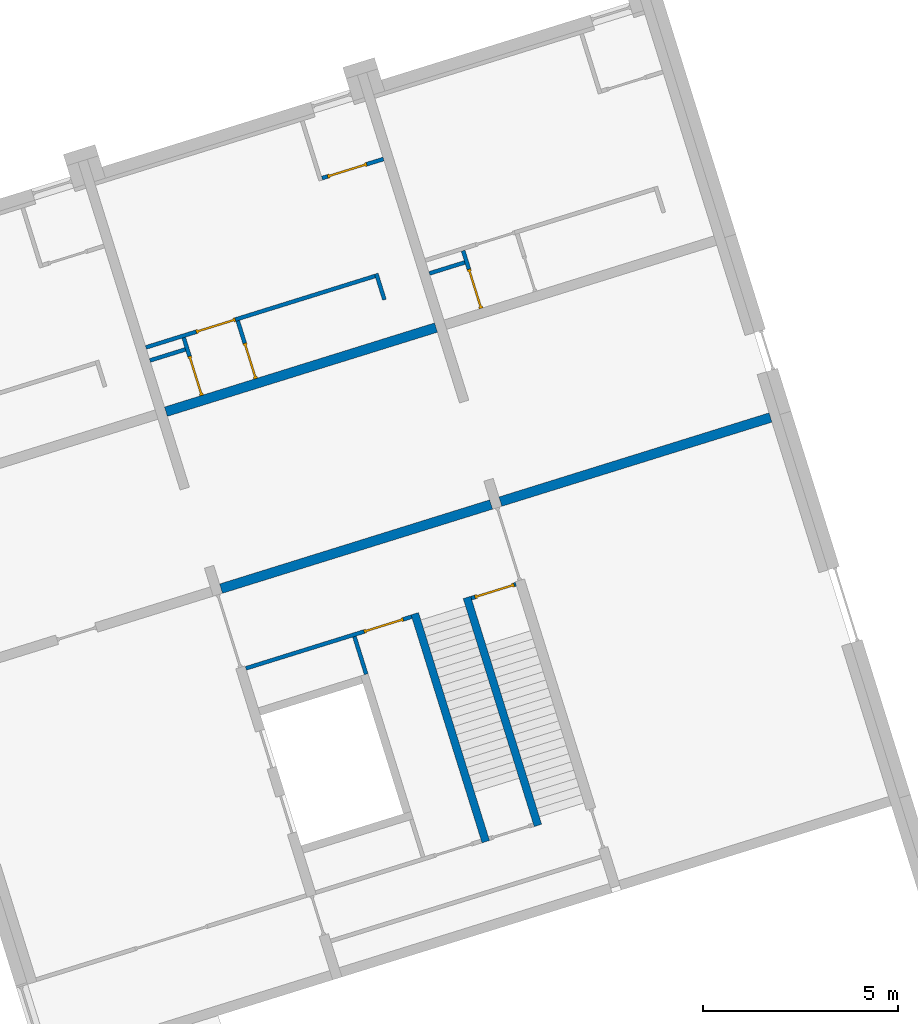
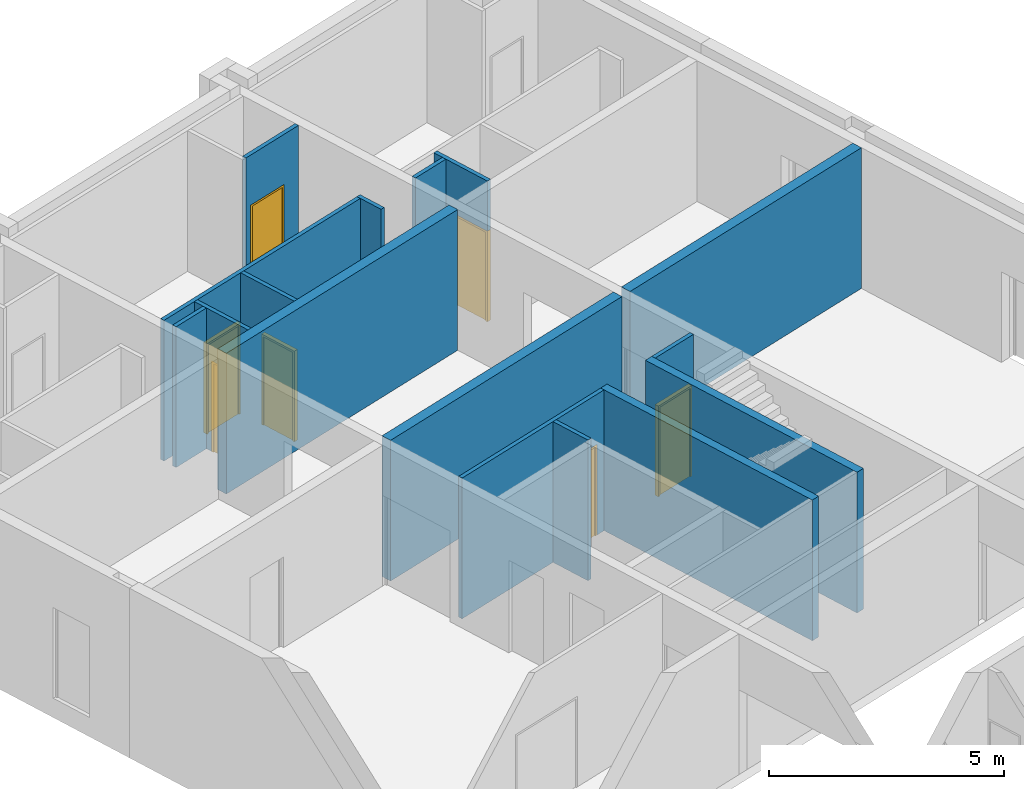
# One storey, part 5 of 10: 16 walls, 7 doors, 10 openings.
"""IFC4 building model written with IfcOpenShell, lengths in metres."""

from ifc_helpers import new_model, entity, si_unit, converted_unit, direction, frame, origin, place, context, subcontext, project, spatial, indexed_curve, outline, extrude, polygons, source, transform, mapped, material, constituent, constituent_set, type_object, type_shapes, element, fill, save


model = new_model("IFC4")

# Units and contexts
model_context = context("Model", 3, precision=1e-05, world=origin(), true_north=direction((6.12323399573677e-17, 1.0)))
body_context = subcontext(model_context, "Body", "Model", "MODEL_VIEW")
ifc_project = project(units=[si_unit("LENGTHUNIT", "METRE"), si_unit("AREAUNIT", "SQUARE_METRE"), si_unit("VOLUMEUNIT", "CUBIC_METRE"), converted_unit("PLANEANGLEUNIT", "DEGREE", entity("IfcPlaneAngleMeasure", 0.0174532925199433), si_unit("PLANEANGLEUNIT", "RADIAN"), dimensions=[0, 0, 0, 0, 0, 0, 0])], contexts=[model_context])

# Site, building, storey
site_placement = place(None, frame((13.1347999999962, 11.9886000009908, 0.0), z_axis=(0.0, 0.0, 1.0), x_axis=(0.954770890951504, 0.297342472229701, 0.0)))
site = spatial("IfcSite", under=ifc_project, at=site_placement, Name="Schiehaven", CompositionType="ELEMENT")
building_placement = place(site_placement, origin())
building = spatial("IfcBuilding", under=site, at=building_placement, Name="VORM huis", CompositionType="ELEMENT")
storey_placement = place(building_placement, origin())
storey = spatial("IfcBuildingStorey", under=building, at=storey_placement, Name="00 begane grond", CompositionType="ELEMENT", Elevation=0.0)

# Walls
ifc_material_1 = material(Name="beton_gewapend_ihw", Category="Miscellaneous")
wall_type_1 = type_object("IfcWallType", Name="Basic Wall:28_WA_skelet_wand 250mm_gen", PredefinedType="STANDARD")
wall_1_placement = place(storey_placement, frame((12.6250000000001, 22.2, 0.0)))
element("IfcWall", 1, at=wall_1_placement, inside=storey, type_object=wall_type_1, material=ifc_material_1, Name="Constructieve wand", ObjectType="Wand", PredefinedType="NOTDEFINED", context=body_context, shape_type="SweptSolid", body=[
    extrude(outline(indexed_curve([(7.25000000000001, 0.125000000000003), (-4.73312500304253e-16, 0.125000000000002), (4.73312500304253e-16, -0.125000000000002), (7.25000000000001, -0.125), (7.25000000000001, 0.125000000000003)], self_intersect=False)), origin(), (0.0, 0.0, 1.0), 3.65),
])
ifc_material_2 = material(Name="beton_gewapend_prefab-element", Category="Miscellaneous")
wall_type_2 = type_object("IfcWallType", Name="Basic Wall:28_WA_skelet_wand 200mm_gen", PredefinedType="STANDARD")
wall_2_placement = place(storey_placement, frame((17.1750000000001, 13.99, 0.0), z_axis=(0.0, 0.0, 1.0), x_axis=(0.0, 1.0, 0.0)))
element("IfcWall", 2, at=wall_2_placement, inside=storey, type_object=wall_type_2, material=ifc_material_2, Name="Constructieve wand", ObjectType="Wand", PredefinedType="NOTDEFINED", context=body_context, shape_type="SweptSolid", body=[
    extrude(outline(indexed_curve([(6.12000000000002, 0.0999999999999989), (-5.30817220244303e-16, 0.0999999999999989), (5.30817220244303e-16, -0.0999999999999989), (6.12000000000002, -0.0999999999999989), (6.12000000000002, 0.0999999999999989)], self_intersect=False)), origin(), (0.0, 0.0, 1.0), 3.65),
])
wall_3_placement = place(storey_placement, frame((18.5750000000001, 13.99, 0.0), z_axis=(0.0, 0.0, 1.0), x_axis=(0.0, 1.0, 0.0)))
element("IfcWall", 3, at=wall_3_placement, inside=storey, type_object=wall_type_2, material=ifc_material_2, Name="Constructieve wand", ObjectType="Wand", PredefinedType="NOTDEFINED", context=body_context, shape_type="SweptSolid", body=[
    extrude(outline(indexed_curve([(6.12000000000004, 0.0999999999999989), (-6.36980664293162e-16, 0.0999999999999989), (6.36980664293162e-16, -0.0999999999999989), (6.12000000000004, -0.0999999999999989), (6.12000000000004, 0.0999999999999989)], self_intersect=False)), origin(), (0.0, 0.0, 1.0), 3.65),
])
ifc_material_3 = material(Name="ntb_ntb_ntb", Category="Miscellaneous")
wall_type_3 = type_object("IfcWallType", Name="Basic Wall:22_WA_afbouw_binnenwand 250mm_gen", PredefinedType="STANDARD")
wall_4_placement = place(storey_placement, frame((12.6250000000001, 26.95, 0.0)))
element("IfcWall", 4, at=wall_4_placement, inside=storey, type_object=wall_type_3, material=ifc_material_3, Name="Binnenwand", ObjectType="Wand", PredefinedType="NOTDEFINED", context=body_context, shape_type="SweptSolid", body=[
    extrude(outline(indexed_curve([(7.24999999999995, 0.124999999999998), (-6.13193370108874e-16, 0.125000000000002), (6.13193370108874e-16, -0.125000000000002), (7.24999999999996, -0.125000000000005), (7.24999999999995, 0.124999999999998)], self_intersect=False)), origin(), (0.0, 0.0, 1.0), 3.65),
])
wall_5_placement = place(storey_placement, frame((20.1250000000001, 22.2, 0.0)))
element("IfcWall", 5, at=wall_5_placement, inside=storey, type_object=wall_type_3, material=ifc_material_3, Name="Binnenwand", ObjectType="Wand", PredefinedType="NOTDEFINED", context=body_context, shape_type="SweptSolid", body=[
    extrude(outline(indexed_curve([(7.24999999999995, 0.124999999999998), (-6.13193370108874e-16, 0.125000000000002), (6.13193370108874e-16, -0.125000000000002), (7.24999999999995, -0.125000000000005), (7.24999999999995, 0.124999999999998)], self_intersect=False)), origin(), (0.0, 0.0, 1.0), 3.65),
])

# Wall, openings, door
wall_type_4 = type_object("IfcWallType", Name="Basic Wall:22_WA_afbouw_binnenwand 100mm_gen", PredefinedType="STANDARD")
wall_6_placement = place(storey_placement, frame((19.8750000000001, 20.06, 0.0), z_axis=(0.0, 0.0, 1.0), x_axis=(-1.0, 0.0, 0.0)))
wall_6 = element("IfcWall", 6, at=wall_6_placement, inside=storey, type_object=wall_type_4, material=ifc_material_3, Name="Binnenwand", ObjectType="Wand", PredefinedType="NOTDEFINED", context=body_context, shape_type="Tessellation", body=[
    polygons([(0.0, -0.0499999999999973, 0.0), (0.049999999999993, -0.0499999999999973, 0.0), (0.049999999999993, -0.0499999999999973, 2.34999999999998), (1.09999999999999, -0.0499999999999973, 2.34999999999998), (1.09999999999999, -0.0499999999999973, 0.0), (1.19999999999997, -0.0499999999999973, 0.0), (1.19999999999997, -0.0499999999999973, 3.65), (0.0, -0.0499999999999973, 3.65), (0.049999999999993, 0.0500000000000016, 2.34999999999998), (0.049999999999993, 0.0500000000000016, 0.0), (0.0, 0.0500000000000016, 0.0), (0.0, 0.0500000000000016, 3.65), (1.19999999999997, 0.0500000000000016, 3.65), (1.19999999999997, 0.0500000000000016, 0.0), (1.09999999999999, 0.0500000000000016, 0.0), (1.09999999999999, 0.0500000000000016, 2.34999999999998)], [[[1, 2, 3, 4, 5, 6, 7, 8]], [[9, 10, 11, 12, 13, 14, 15, 16]], [[11, 10, 2, 1]], [[7, 6, 14, 13]], [[8, 7, 13, 12]], [[1, 8, 12, 11]], [[5, 4, 16, 15]], [[3, 2, 10, 9]], [[4, 3, 9, 16]], [[15, 14, 6, 5]]], closed=True),
])
opening_1_placement = place(wall_6_placement, frame((1.09999999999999, 0.0500000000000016, 0.0)))
opening_1 = element("IfcOpeningElement", 7, at=opening_1_placement, cuts=wall_6, Name="Vluchtdeur", PredefinedType="OPENING", context=body_context, shape_type="SweptSolid", body=[
    extrude(outline(indexed_curve([(2.34999999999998, 0.0), (2.34999999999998, 1.05), (0.0, 1.05), (0.0, 0.0), (2.34999999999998, 0.0)], self_intersect=False)), frame((0.0, 0.0, 0.0), z_axis=(0.0, -1.0, 0.0), x_axis=(0.0, 0.0, 1.0)), (0.0, 0.0, 1.0), 0.1),
])
opening_2_placement = place(wall_6_placement, frame((19.8750000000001, 20.06, 0.0), z_axis=(0.0, 0.0, 1.0), x_axis=(-1.0, 0.0, 0.0)))
element("IfcOpeningElement", 8, at=opening_2_placement, cuts=wall_6, Name="Vluchtdeur", PredefinedType="OPENING", context=body_context, shape_type="SweptSolid", body=[
    extrude(outline(indexed_curve([(-1.17499999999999, -0.525), (1.17499999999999, -0.525), (1.17499999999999, 0.525000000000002), (-1.17499999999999, 0.525000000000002), (-1.17499999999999, -0.525)], self_intersect=False)), frame((19.3000000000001, 21.534, 1.17499999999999), z_axis=(0.0, -1.0, 0.0), x_axis=(0.0, 0.0, -1.0)), (0.0, 0.0, 1.0), 3.048),
])
ifc_material_4 = material(Name="PD_a_binnenwandopeningen", Category="Miscellaneous")
ifc_constituent_1 = constituent(ifc_material_4, Name="PD_a_binnenwandopeningen", Category="Miscellaneous")
ifc_material_5 = material(Name="metaal_aluminium_ntb", Category="Miscellaneous")
ifc_constituent_2 = constituent(ifc_material_5, Name="metaal_aluminium_ntb", Category="Miscellaneous")
ifc_constituent_set_1 = constituent_set(constituents=[ifc_constituent_1, ifc_constituent_2])
door_type_1 = type_object("IfcDoorType", Name="32_DO_binnendeur enkel:binnendeur zelfsluitend 30min", OperationType="NOTDEFINED", PredefinedType="DOOR")
shared_shape_1 = source(origin(), body_context, "Body", "SweptSolid", [
    extrude(outline(indexed_curve([(0.475, -1.16249999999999), (0.525, -1.16249999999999), (0.525, 1.18749999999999), (-0.525, 1.18749999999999), (-0.525, -1.16249999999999), (-0.475, -1.16249999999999), (-0.475, 1.13749999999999), (0.475, 1.13749999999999), (0.475, -1.16249999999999)], self_intersect=False)), frame((0.525000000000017, 0.100000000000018, 1.16249999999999), z_axis=(0.0, -1.0, 0.0), x_axis=(1.0, 0.0, 0.0)), (0.0, 0.0, 1.0), 0.1),
    extrude(outline(indexed_curve([(-0.475, -0.025), (0.475, -0.025), (0.475, 0.025), (-0.475, 0.025), (-0.475, -0.025)], self_intersect=False)), frame((0.525000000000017, 0.0499999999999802, 0.0)), (0.0, 0.0, 1.0), 2.29999999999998),
])
door_1_placement = place(opening_1_placement, frame((0.0, 0.0, 0.0), z_axis=(0.0, 0.0, 1.0), x_axis=(-1.0, 0.0, 0.0)))
door_1 = element("IfcDoor", 9, at=door_1_placement, inside=storey, type_object=door_type_1, material=ifc_constituent_set_1, Name="Vluchtdeur", ObjectType="Deur", OperationType="NOTDEFINED", OverallHeight=2.34999999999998, OverallWidth=1.05, PredefinedType="DOOR", context=body_context, shape_type="MappedRepresentation", body=[
    mapped(shared_shape_1, transform((0.0, 0.0, 0.0), scale=1.0)),
])
fill(opening_1, door_1)

# Wall
wall_7_placement = place(storey_placement, frame((15.5250000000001, 20.01, 0.0), z_axis=(0.0, 0.0, 1.0), x_axis=(0.0, -1.0, 0.0)))
element("IfcWall", 10, at=wall_7_placement, inside=storey, type_object=wall_type_4, material=ifc_material_3, Name="Binnenwand", ObjectType="Wand", PredefinedType="NOTDEFINED", context=body_context, shape_type="SweptSolid", body=[
    extrude(outline(indexed_curve([(1.01000000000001, 0.0499999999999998), (-1.56276042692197e-17, 0.0499999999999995), (1.56276042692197e-17, -0.0499999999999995), (1.01000000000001, -0.0499999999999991), (1.01000000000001, 0.0499999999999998)], self_intersect=False)), origin(), (0.0, 0.0, 1.0), 3.65),
])

# Wall, openings, door
wall_8_placement = place(storey_placement, frame((17.0750000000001, 20.06, 0.0), z_axis=(0.0, 0.0, 1.0), x_axis=(-1.0, 0.0, 0.0)))
wall_8 = element("IfcWall", 11, at=wall_8_placement, inside=storey, type_object=wall_type_4, material=ifc_material_3, Name="Binnenwand", ObjectType="Wand", PredefinedType="NOTDEFINED", context=body_context, shape_type="Tessellation", body=[
    polygons([(2.00026242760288e-15, -0.0499999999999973, 0.0), (0.224999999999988, -0.0499999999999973, 0.0), (0.22499999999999, -0.0499999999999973, 2.34999999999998), (1.27499999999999, -0.0500000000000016, 2.34999999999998), (1.27499999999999, -0.0500000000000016, 0.0), (4.45000000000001, -0.0499999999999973, 0.0), (4.45000000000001, -0.0499999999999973, 3.65), (2.00026242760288e-15, -0.0499999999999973, 3.65), (0.22499999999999, 0.0500000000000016, 2.34999999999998), (0.224999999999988, 0.0500000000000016, 0.0), (2.19493516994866e-15, 0.0500000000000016, 0.0), (2.19493516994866e-15, 0.0500000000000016, 3.65), (1.50000000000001, 0.0499999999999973, 3.65), (1.6, 0.0499999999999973, 3.65), (4.45000000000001, 0.0500000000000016, 3.65), (4.45000000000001, 0.0500000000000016, 0.0), (1.6, 0.0499999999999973, 0.0), (1.50000000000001, 0.0499999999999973, 0.0), (1.27499999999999, 0.0499999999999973, 0.0), (1.27499999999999, 0.0499999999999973, 2.34999999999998)], [[[1, 2, 3, 4, 5, 6, 7, 8]], [[9, 10, 11, 12, 13, 14, 15, 16, 17, 18, 19, 20]], [[11, 10, 2, 1]], [[7, 6, 16, 15]], [[8, 7, 15, 14, 13, 12]], [[1, 8, 12, 11]], [[4, 3, 9, 20]], [[3, 2, 10, 9]], [[5, 4, 20, 19]], [[19, 18, 17, 16, 6, 5]]], closed=True),
])
opening_3_placement = place(wall_8_placement, frame((1.27499999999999, 0.0500000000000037, 0.0)))
opening_3 = element("IfcOpeningElement", 12, at=opening_3_placement, cuts=wall_8, Name="Vluchtdeur", PredefinedType="OPENING", context=body_context, shape_type="SweptSolid", body=[
    extrude(outline(indexed_curve([(2.34999999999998, 1.353583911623e-15), (2.34999999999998, 1.05), (0.0, 1.05), (0.0, 1.353583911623e-15), (2.34999999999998, 1.353583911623e-15)], self_intersect=False)), frame((0.0, 0.0, 0.0), z_axis=(0.0, -1.0, 0.0), x_axis=(0.0, 0.0, 1.0)), (0.0, 0.0, 1.0), 0.1),
])
opening_4_placement = place(wall_8_placement, frame((17.0750000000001, 20.06, 0.0), z_axis=(0.0, 0.0, 1.0), x_axis=(-1.0, 0.0, 0.0)))
element("IfcOpeningElement", 13, at=opening_4_placement, cuts=wall_8, Name="Vluchtdeur", PredefinedType="OPENING", context=body_context, shape_type="SweptSolid", body=[
    extrude(outline(indexed_curve([(-1.17499999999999, -0.525), (1.17499999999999, -0.524999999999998), (1.17499999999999, 0.525000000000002), (-1.17499999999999, 0.525000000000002), (-1.17499999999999, -0.525)], self_intersect=False)), frame((16.3250000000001, 21.534, 1.17499999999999), z_axis=(0.0, -1.0, 0.0), x_axis=(0.0, 0.0, -1.0)), (0.0, 0.0, 1.0), 3.048),
])
ifc_constituent_3 = constituent(ifc_material_4, Name="PD_a_binnenwandopeningen", Category="Miscellaneous")
ifc_constituent_4 = constituent(ifc_material_5, Name="metaal_aluminium_ntb", Category="Miscellaneous")
ifc_constituent_set_2 = constituent_set(constituents=[ifc_constituent_3, ifc_constituent_4])
door_2_placement = place(opening_3_placement, frame((0.0, 0.0, 0.0), z_axis=(0.0, 0.0, 1.0), x_axis=(-1.0, 0.0, 0.0)))
door_2 = element("IfcDoor", 14, at=door_2_placement, inside=storey, type_object=door_type_1, material=ifc_constituent_set_2, Name="Vluchtdeur", ObjectType="Deur", OperationType="NOTDEFINED", OverallHeight=2.34999999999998, OverallWidth=1.05, PredefinedType="DOOR", context=body_context, shape_type="MappedRepresentation", body=[
    mapped(shared_shape_1, transform((0.0, 0.0, 0.0), scale=1.0)),
])
fill(opening_3, door_2)

# Wall, opening, door
wall_9_placement = place(storey_placement, frame((15.0750000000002, 28.625, 0.0), z_axis=(0.0, 0.0, 1.0), x_axis=(0.0, -1.0, 0.0)))
wall_9 = element("IfcWall", 15, at=wall_9_placement, inside=storey, type_object=wall_type_4, material=ifc_material_3, Name="Binnenwand", ObjectType="Wand", PredefinedType="NOTDEFINED", context=body_context, shape_type="Tessellation", body=[
    polygons([(1.54999999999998, -0.0500000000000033, 3.65), (0.0, -0.0500000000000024, 3.65), (0.0, -0.0500000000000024, 2.34999999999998), (0.0, -0.0500000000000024, 0.0), (0.599999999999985, -0.0500000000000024, 0.0), (0.599999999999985, -0.0500000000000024, 2.34999999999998), (1.54999999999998, -0.0500000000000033, 2.34999999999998), (-4.33146851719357e-15, 0.0499999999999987, 3.65), (1.54999999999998, 0.0499999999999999, 3.65), (1.54999999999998, 0.0499999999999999, 2.34999999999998), (0.599999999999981, 0.0500000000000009, 2.34999999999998), (0.599999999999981, 0.0500000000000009, 0.0), (-4.33146851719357e-15, 0.0499999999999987, 0.0)], [[[1, 2, 3, 4, 5, 6, 7]], [[8, 9, 10, 11, 12, 13]], [[4, 13, 12, 5]], [[9, 1, 7, 10]], [[2, 1, 9, 8]], [[11, 6, 5, 12]], [[6, 11, 10, 7]], [[4, 3, 2, 8, 13]]], closed=True),
])
opening_5_placement = place(wall_9_placement, frame((1.54999999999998, 0.0499999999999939, 0.0)))
opening_5 = element("IfcOpeningElement", 16, at=opening_5_placement, cuts=wall_9, Name="Binnendeur", PredefinedType="OPENING", context=body_context, shape_type="SweptSolid", body=[
    extrude(outline(indexed_curve([(2.34999999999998, 2.70716782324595e-16), (2.34999999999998, 0.950000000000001), (0.0, 0.950000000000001), (0.0, 2.70716782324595e-16), (2.34999999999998, 2.70716782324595e-16)], self_intersect=False)), frame((0.0, 0.0, 0.0), z_axis=(0.0, -1.0, 0.0), x_axis=(0.0, 0.0, 1.0)), (0.0, 0.0, 1.0), 0.1),
])
ifc_constituent_5 = constituent(ifc_material_4, Name="PD_a_binnenwandopeningen", Category="Miscellaneous")
ifc_constituent_6 = constituent(ifc_material_5, Name="metaal_aluminium_ntb", Category="Miscellaneous")
ifc_constituent_set_3 = constituent_set(constituents=[ifc_constituent_5, ifc_constituent_6])
door_type_2 = type_object("IfcDoorType", Name="32_DO_binnendeur enkel:kastdeur", OperationType="REVOLVING", PredefinedType="DOOR")
shared_shape_2 = source(origin(), body_context, "Body", "SweptSolid", [
    extrude(outline(indexed_curve([(0.425, -1.16249999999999), (0.475000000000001, -1.16249999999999), (0.475000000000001, 1.18749999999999), (-0.475000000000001, 1.18749999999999), (-0.475000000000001, -1.16249999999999), (-0.425, -1.16249999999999), (-0.425, 1.13749999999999), (0.425, 1.13749999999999), (0.425, -1.16249999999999)], self_intersect=False)), frame((0.475000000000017, 0.100000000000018, 1.16249999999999), z_axis=(0.0, -1.0, 0.0), x_axis=(1.0, 0.0, 0.0)), (0.0, 0.0, 1.0), 0.1),
    extrude(outline(indexed_curve([(-0.425, -0.025), (0.425, -0.025), (0.425, 0.025), (-0.425, 0.025), (-0.425, -0.025)], self_intersect=False)), frame((0.475000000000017, 0.0499999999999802, 0.0)), (0.0, 0.0, 1.0), 2.29999999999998),
])
door_3_placement = place(opening_5_placement, frame((0.0, 0.0, 0.0), z_axis=(0.0, 0.0, 1.0), x_axis=(-1.0, 0.0, 0.0)))
door_3 = element("IfcDoor", 17, at=door_3_placement, inside=storey, type_object=door_type_2, material=ifc_constituent_set_3, Name="Binnendeur", ObjectType="Deur", OperationType="REVOLVING", OverallHeight=2.34999999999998, OverallWidth=0.950000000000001, PredefinedType="DOOR", context=body_context, shape_type="MappedRepresentation", body=[
    mapped(shared_shape_2, transform((0.0, 0.0, 0.0), scale=1.0)),
])
fill(opening_5, door_3)

# Wall, openings, door
wall_10_placement = place(storey_placement, frame((18.7750000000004, 28.6749999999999, 0.0), z_axis=(0.0, 0.0, 1.0), x_axis=(-1.0, 0.0, 0.0)))
wall_10 = element("IfcWall", 18, at=wall_10_placement, inside=storey, type_object=wall_type_4, material=ifc_material_3, Name="Binnenwand", ObjectType="Wand", PredefinedType="NOTDEFINED", context=body_context, shape_type="Tessellation", body=[
    polygons([(3.27113411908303e-15, -0.0500000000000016, 0.0), (3.7500000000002, -0.049999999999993, 0.0), (3.7500000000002, -0.049999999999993, 2.34999999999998), (4.8000000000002, -0.049999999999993, 2.34999999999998), (4.8000000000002, -0.049999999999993, 0.0), (6.15000000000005, -0.049999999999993, 0.0), (6.15000000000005, -0.049999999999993, 3.65), (3.27113411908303e-15, -0.0500000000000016, 3.65), (3.7500000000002, 0.050000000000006, 2.34999999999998), (3.7500000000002, 0.050000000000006, 0.0), (3.6500000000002, 0.0500000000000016, 0.0), (2.91292729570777e-15, 0.0500000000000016, 0.0), (2.91292729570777e-15, 0.0500000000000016, 3.65), (3.6500000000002, 0.0500000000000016, 3.65), (3.7500000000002, 0.050000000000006, 3.65), (5.10000000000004, 0.050000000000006, 3.65), (5.20000000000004, 0.050000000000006, 3.65), (6.15000000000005, 0.0500000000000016, 3.65), (6.15000000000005, 0.0500000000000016, 0.0), (5.20000000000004, 0.050000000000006, 0.0), (5.10000000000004, 0.050000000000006, 0.0), (4.8000000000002, 0.0500000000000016, 0.0), (4.8000000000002, 0.0500000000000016, 2.34999999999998)], [[[1, 2, 3, 4, 5, 6, 7, 8]], [[9, 10, 11, 12, 13, 14, 15, 16, 17, 18, 19, 20, 21, 22, 23]], [[12, 11, 10, 2, 1]], [[7, 6, 19, 18]], [[8, 7, 18, 17, 16, 15, 14, 13]], [[5, 4, 23, 22]], [[3, 2, 10, 9]], [[4, 3, 9, 23]], [[1, 8, 13, 12]], [[22, 21, 20, 19, 6, 5]]], closed=True),
])
opening_6_placement = place(wall_10_placement, frame((4.8000000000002, 0.0499999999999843, 0.0)))
opening_6 = element("IfcOpeningElement", 19, at=opening_6_placement, cuts=wall_10, Name="Binnendeur", PredefinedType="OPENING", context=body_context, shape_type="SweptSolid", body=[
    extrude(outline(indexed_curve([(2.34999999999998, 1.08286712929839e-15), (2.34999999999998, 1.05), (0.0, 1.05), (0.0, 1.08286712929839e-15), (2.34999999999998, 1.08286712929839e-15)], self_intersect=False)), frame((0.0, 0.0, 0.0), z_axis=(0.0, -1.0, 0.0), x_axis=(0.0, 0.0, 1.0)), (0.0, 0.0, 1.0), 0.1),
])
opening_7_placement = place(wall_10_placement, frame((18.7750000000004, 28.6749999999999, 0.0), z_axis=(0.0, 0.0, 1.0), x_axis=(-1.0, 0.0, 0.0)))
element("IfcOpeningElement", 20, at=opening_7_placement, cuts=wall_10, Name="Binnendeur", PredefinedType="OPENING", context=body_context, shape_type="SweptSolid", body=[
    extrude(outline(indexed_curve([(-1.17499999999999, -0.525), (1.17499999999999, -0.524999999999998), (1.17499999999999, 0.525000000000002), (-1.17499999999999, 0.525000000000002), (-1.17499999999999, -0.525)], self_intersect=False)), frame((14.5000000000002, 30.149, 1.17499999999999), z_axis=(0.0, -1.0, 0.0), x_axis=(0.0, 0.0, -1.0)), (0.0, 0.0, 1.0), 3.048),
])
ifc_constituent_7 = constituent(ifc_material_4, Name="PD_a_binnenwandopeningen", Category="Miscellaneous")
ifc_constituent_8 = constituent(ifc_material_5, Name="metaal_aluminium_ntb", Category="Miscellaneous")
ifc_constituent_set_4 = constituent_set(constituents=[ifc_constituent_7, ifc_constituent_8])
door_type_3 = type_object("IfcDoorType", Name="32_DO_binnendeur enkel:binnendeur", OperationType="REVOLVING", PredefinedType="DOOR")
shared_shape_3 = source(origin(), body_context, "Body", "SweptSolid", [
    extrude(outline(indexed_curve([(0.475, -1.16249999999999), (0.525, -1.16249999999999), (0.525, 1.18749999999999), (-0.525, 1.18749999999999), (-0.525, -1.16249999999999), (-0.475, -1.16249999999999), (-0.475, 1.13749999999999), (0.475, 1.13749999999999), (0.475, -1.16249999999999)], self_intersect=False)), frame((0.525000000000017, 0.100000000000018, 1.16249999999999), z_axis=(0.0, -1.0, 0.0), x_axis=(1.0, 0.0, 0.0)), (0.0, 0.0, 1.0), 0.1),
    extrude(outline(indexed_curve([(-0.475, -0.025), (0.475, -0.025), (0.475, 0.025), (-0.475, 0.025), (-0.475, -0.025)], self_intersect=False)), frame((0.525000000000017, 0.0499999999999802, 0.0)), (0.0, 0.0, 1.0), 2.29999999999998),
])
door_4_placement = place(opening_6_placement, frame((0.0, 0.0, 0.0), z_axis=(0.0, 0.0, 1.0), x_axis=(-1.0, 0.0, 0.0)))
door_4 = element("IfcDoor", 21, at=door_4_placement, inside=storey, type_object=door_type_3, material=ifc_constituent_set_4, Name="Binnendeur", ObjectType="Deur", OperationType="REVOLVING", OverallHeight=2.34999999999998, OverallWidth=1.05, PredefinedType="DOOR", context=body_context, shape_type="MappedRepresentation", body=[
    mapped(shared_shape_3, transform((0.0, 0.0, 0.0), scale=1.0)),
])
fill(opening_6, door_4)

# Wall
wall_11_placement = place(storey_placement, frame((12.6250000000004, 28.325, 0.0)))
element("IfcWall", 22, at=wall_11_placement, inside=storey, type_object=wall_type_4, material=ifc_material_3, Name="Binnenwand", ObjectType="Wand", PredefinedType="NOTDEFINED", context=body_context, shape_type="SweptSolid", body=[
    extrude(outline(indexed_curve([(0.950000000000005, 0.0500000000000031), (-7.64077819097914e-17, 0.0500000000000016), (7.64077819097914e-17, -0.0500000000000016), (0.950000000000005, -0.0500000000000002), (0.950000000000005, 0.0500000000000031)], self_intersect=False)), origin(), (0.0, 0.0, 1.0), 3.65),
])

# Wall, opening, door
wall_12_placement = place(storey_placement, frame((13.6250000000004, 27.075, 0.0), z_axis=(0.0, 0.0, 1.0), x_axis=(0.0, 1.0, 0.0)))
wall_12 = element("IfcWall", 23, at=wall_12_placement, inside=storey, type_object=wall_type_4, material=ifc_material_3, Name="Binnenwand", ObjectType="Wand", PredefinedType="NOTDEFINED", context=body_context, shape_type="Tessellation", body=[
    polygons([(1.54999999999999, -0.0500000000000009, 3.65), (0.0, -0.0499999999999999, 3.65), (0.0, -0.0499999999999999, 2.34999999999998), (1.05, -0.0500000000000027, 2.34999999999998), (1.05, -0.0500000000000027, 0.0), (1.54999999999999, -0.0500000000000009, 0.0), (0.0, 0.0500000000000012, 3.65), (1.2, 0.049999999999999, 3.65), (1.29999999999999, 0.0499999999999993, 3.65), (1.54999999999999, 0.049999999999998, 3.65), (1.54999999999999, 0.049999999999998, 0.0), (1.29999999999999, 0.0499999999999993, 0.0), (1.2, 0.049999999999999, 0.0), (1.05, 0.0499999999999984, 0.0), (1.05, 0.0499999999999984, 2.34999999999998), (0.0, 0.0500000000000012, 2.34999999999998)], [[[1, 2, 3, 4, 5, 6]], [[7, 8, 9, 10, 11, 12, 13, 14, 15, 16]], [[11, 6, 5, 14, 13, 12]], [[2, 1, 10, 9, 8, 7]], [[2, 7, 16, 3]], [[4, 15, 14, 5]], [[15, 4, 3, 16]], [[1, 6, 11, 10]]], closed=True),
])
opening_8_placement = place(wall_12_placement, frame((1.05, 0.0499999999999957, 0.0)))
opening_8 = element("IfcOpeningElement", 24, at=opening_8_placement, cuts=wall_12, Name="Binnendeur", PredefinedType="OPENING", context=body_context, shape_type="SweptSolid", body=[
    extrude(outline(indexed_curve([(2.34999999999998, -2.0303637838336e-30), (2.34999999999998, 1.05), (0.0, 1.05), (0.0, -2.0303637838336e-30), (2.34999999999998, -2.0303637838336e-30)], self_intersect=False)), frame((0.0, 0.0, 0.0), z_axis=(0.0, -1.0, 0.0), x_axis=(0.0, 0.0, 1.0)), (0.0, 0.0, 1.0), 0.1),
])
ifc_constituent_9 = constituent(ifc_material_4, Name="PD_a_binnenwandopeningen", Category="Miscellaneous")
ifc_constituent_10 = constituent(ifc_material_5, Name="metaal_aluminium_ntb", Category="Miscellaneous")
ifc_constituent_set_5 = constituent_set(constituents=[ifc_constituent_9, ifc_constituent_10])
door_5_placement = place(opening_8_placement, frame((0.0, 0.0, 0.0), z_axis=(0.0, 0.0, 1.0), x_axis=(-1.0, 0.0, 0.0)))
door_5 = element("IfcDoor", 25, at=door_5_placement, inside=storey, type_object=door_type_3, material=ifc_constituent_set_5, Name="Binnendeur", ObjectType="Deur", OperationType="REVOLVING", OverallHeight=2.34999999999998, OverallWidth=1.05, PredefinedType="DOOR", context=body_context, shape_type="MappedRepresentation", body=[
    mapped(shared_shape_3, transform((0.0, 0.0, 0.0), scale=1.0)),
])
fill(opening_8, door_5)

# Wall
wall_13_placement = place(storey_placement, frame((18.8250000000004, 28.025, 0.0), z_axis=(0.0, 0.0, 1.0), x_axis=(0.0, 1.0, 0.0)))
element("IfcWall", 26, at=wall_13_placement, inside=storey, type_object=wall_type_4, material=ifc_material_3, Name="Binnenwand", ObjectType="Wand", PredefinedType="NOTDEFINED", context=body_context, shape_type="SweptSolid", body=[
    extrude(outline(indexed_curve([(0.699999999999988, 0.0499999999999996), (-1.25084687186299e-17, 0.0499999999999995), (1.25084687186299e-17, -0.0499999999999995), (0.699999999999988, -0.0499999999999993), (0.699999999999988, 0.0499999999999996)], self_intersect=False)), origin(), (0.0, 0.0, 1.0), 3.65),
])

# Wall, opening, door
wall_14_placement = place(storey_placement, frame((19.8750000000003, 31.475, 0.0), z_axis=(0.0, 0.0, 1.0), x_axis=(-1.0, 0.0, 0.0)))
wall_14 = element("IfcWall", 27, at=wall_14_placement, inside=storey, type_object=wall_type_4, material=ifc_material_3, Name="Binnenwand", ObjectType="Wand", PredefinedType="NOTDEFINED", context=body_context, shape_type="Tessellation", body=[
    polygons([(1.49999999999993, -0.0499999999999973, 2.34999999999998), (1.49999999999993, -0.0499999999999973, 0.0), (1.64999999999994, -0.0499999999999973, 0.0), (1.64999999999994, -0.0499999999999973, 3.65), (-1.11745698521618e-15, -0.0499999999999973, 3.65), (-1.11745698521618e-15, -0.0499999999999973, 0.0), (0.449999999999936, -0.049999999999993, 0.0), (0.449999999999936, -0.049999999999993, 2.34999999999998), (1.64999999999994, 0.050000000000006, 0.0), (1.49999999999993, 0.050000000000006, 0.0), (1.49999999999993, 0.050000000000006, 2.34999999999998), (0.449999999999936, 0.0500000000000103, 2.34999999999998), (0.449999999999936, 0.0500000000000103, 0.0), (-8.11636955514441e-16, 0.0500000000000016, 0.0), (-8.11636955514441e-16, 0.0500000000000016, 3.65), (1.64999999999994, 0.050000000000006, 3.65)], [[[1, 2, 3, 4, 5, 6, 7, 8]], [[9, 10, 11, 12, 13, 14, 15, 16]], [[7, 6, 14, 13]], [[5, 4, 16, 15]], [[6, 5, 15, 14]], [[13, 12, 8, 7]], [[11, 10, 2, 1]], [[12, 11, 1, 8]], [[4, 3, 9, 16]], [[3, 2, 10, 9]]], closed=True),
])
opening_9_placement = place(wall_14_placement, frame((1.49999999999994, 0.0500000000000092, 0.0)))
opening_9 = element("IfcOpeningElement", 28, at=opening_9_placement, cuts=wall_14, Name="Binnendeur", PredefinedType="OPENING", context=body_context, shape_type="SweptSolid", body=[
    extrude(outline(indexed_curve([(2.34999999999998, 1.05), (0.0, 1.05), (0.0, 1.353583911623e-15), (2.34999999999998, 1.353583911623e-15), (2.34999999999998, 1.05)], self_intersect=False)), frame((0.0, 0.0, 0.0), z_axis=(0.0, -1.0, 0.0), x_axis=(0.0, 0.0, 1.0)), (0.0, 0.0, 1.0), 0.1),
])
ifc_constituent_11 = constituent(ifc_material_4, Name="PD_a_binnenwandopeningen", Category="Miscellaneous")
ifc_constituent_12 = constituent(ifc_material_5, Name="metaal_aluminium_ntb", Category="Miscellaneous")
ifc_constituent_set_6 = constituent_set(constituents=[ifc_constituent_11, ifc_constituent_12])
shared_shape_4 = source(origin(), body_context, "Body", "SweptSolid", [
    extrude(outline(indexed_curve([(-1.16249999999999, -0.525000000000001), (1.18749999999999, -0.525), (1.18749999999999, 0.525), (-1.16249999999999, 0.525), (-1.16249999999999, 0.475), (1.13749999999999, 0.475), (1.13749999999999, -0.475), (-1.16249999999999, -0.475), (-1.16249999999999, -0.525000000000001)], self_intersect=False)), frame((0.525000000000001, 0.0, 1.16249999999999), z_axis=(0.0, 1.0, 0.0), x_axis=(0.0, 0.0, 1.0)), (0.0, 0.0, 1.0), 0.1),
    extrude(outline(indexed_curve([(-0.025, -0.475), (0.025, -0.475), (0.025, 0.475), (-0.025, 0.475), (-0.025, -0.475)], self_intersect=False)), frame((0.525000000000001, 0.0499999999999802, 0.0), z_axis=(0.0, 0.0, 1.0), x_axis=(0.0, 1.0, 0.0)), (0.0, 0.0, 1.0), 2.29999999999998),
])
type_shapes(door_type_3, [shared_shape_4])
door_6_placement = place(opening_9_placement, frame((0.0, 0.0, 0.0), z_axis=(0.0, 0.0, 1.0), x_axis=(-1.0, 0.0, 0.0)))
door_6 = element("IfcDoor", 29, at=door_6_placement, inside=storey, type_object=door_type_3, material=ifc_constituent_set_6, Name="Binnendeur", ObjectType="Deur", OperationType="REVOLVING", OverallHeight=2.34999999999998, OverallWidth=1.05, PredefinedType="DOOR", context=body_context, shape_type="MappedRepresentation", body=[
    mapped(shared_shape_4, transform((0.0, 0.0, 0.0), scale=1.0)),
])
fill(opening_9, door_6)

# Wall
wall_15_placement = place(storey_placement, frame((20.1250000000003, 28.325, 0.0)))
element("IfcWall", 30, at=wall_15_placement, inside=storey, type_object=wall_type_4, material=ifc_material_3, Name="Binnenwand", ObjectType="Wand", PredefinedType="NOTDEFINED", context=body_context, shape_type="SweptSolid", body=[
    extrude(outline(indexed_curve([(0.950000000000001, 0.0500000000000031), (-7.64077819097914e-17, 0.0500000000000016), (7.64077819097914e-17, -0.0500000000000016), (0.950000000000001, -0.0500000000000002), (0.950000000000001, 0.0500000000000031)], self_intersect=False)), origin(), (0.0, 0.0, 1.0), 3.65),
])

# Wall, opening, door
wall_16_placement = place(storey_placement, frame((21.1250000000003, 27.075, 0.0), z_axis=(0.0, 0.0, 1.0), x_axis=(0.0, 1.0, 0.0)))
wall_16 = element("IfcWall", 31, at=wall_16_placement, inside=storey, type_object=wall_type_4, material=ifc_material_3, Name="Binnenwand", ObjectType="Wand", PredefinedType="NOTDEFINED", context=body_context, shape_type="Tessellation", body=[
    polygons([(1.55, -0.0499999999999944, 3.65), (4.33146851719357e-15, -0.0499999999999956, 3.65), (4.33146851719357e-15, -0.0499999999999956, 2.34999999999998), (1.05000000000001, -0.0499999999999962, 2.34999999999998), (1.05000000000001, -0.0499999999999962, 0.0), (1.55, -0.0499999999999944, 0.0), (0.0, 0.0500000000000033, 3.65), (1.2, 0.0500000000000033, 3.65), (1.29999999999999, 0.0500000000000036, 3.65), (1.54999999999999, 0.0500000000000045, 3.65), (1.54999999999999, 0.0500000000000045, 0.0), (1.29999999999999, 0.0500000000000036, 0.0), (1.2, 0.0500000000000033, 0.0), (1.05, 0.0500000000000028, 0.0), (1.05, 0.0500000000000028, 2.34999999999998), (0.0, 0.0500000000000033, 2.34999999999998)], [[[1, 2, 3, 4, 5, 6]], [[7, 8, 9, 10, 11, 12, 13, 14, 15, 16]], [[11, 6, 5, 14, 13, 12]], [[2, 1, 10, 9, 8, 7]], [[2, 7, 16, 3]], [[4, 15, 14, 5]], [[15, 4, 3, 16]], [[1, 6, 11, 10]]], closed=True),
])
opening_10_placement = place(wall_16_placement, frame((1.05000000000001, 0.0499999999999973, 0.0)))
opening_10 = element("IfcOpeningElement", 32, at=opening_10_placement, cuts=wall_16, Name="Binnendeur", PredefinedType="OPENING", context=body_context, shape_type="SweptSolid", body=[
    extrude(outline(indexed_curve([(2.34999999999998, 0.0), (2.34999999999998, 1.05), (0.0, 1.05), (0.0, 0.0), (2.34999999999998, 0.0)], self_intersect=False)), frame((0.0, 0.0, 0.0), z_axis=(0.0, -1.0, 0.0), x_axis=(0.0, 0.0, 1.0)), (0.0, 0.0, 1.0), 0.1),
])
ifc_constituent_13 = constituent(ifc_material_4, Name="PD_a_binnenwandopeningen", Category="Miscellaneous")
ifc_constituent_14 = constituent(ifc_material_5, Name="metaal_aluminium_ntb", Category="Miscellaneous")
ifc_constituent_set_7 = constituent_set(constituents=[ifc_constituent_13, ifc_constituent_14])
door_7_placement = place(opening_10_placement, frame((0.0, 0.0, 0.0), z_axis=(0.0, 0.0, 1.0), x_axis=(-1.0, 0.0, 0.0)))
door_7 = element("IfcDoor", 33, at=door_7_placement, inside=storey, type_object=door_type_3, material=ifc_constituent_set_7, Name="Binnendeur", ObjectType="Deur", OperationType="REVOLVING", OverallHeight=2.34999999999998, OverallWidth=1.05, PredefinedType="DOOR", context=body_context, shape_type="MappedRepresentation", body=[
    mapped(shared_shape_3, transform((0.0, 0.0, 0.0), scale=1.0)),
])
fill(opening_10, door_7)

save(model, "model.ifc")
